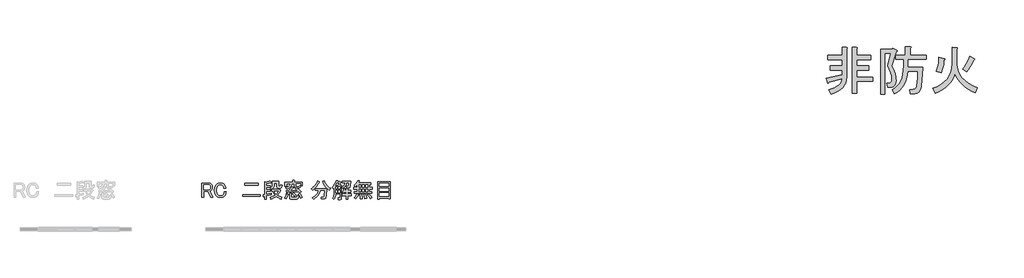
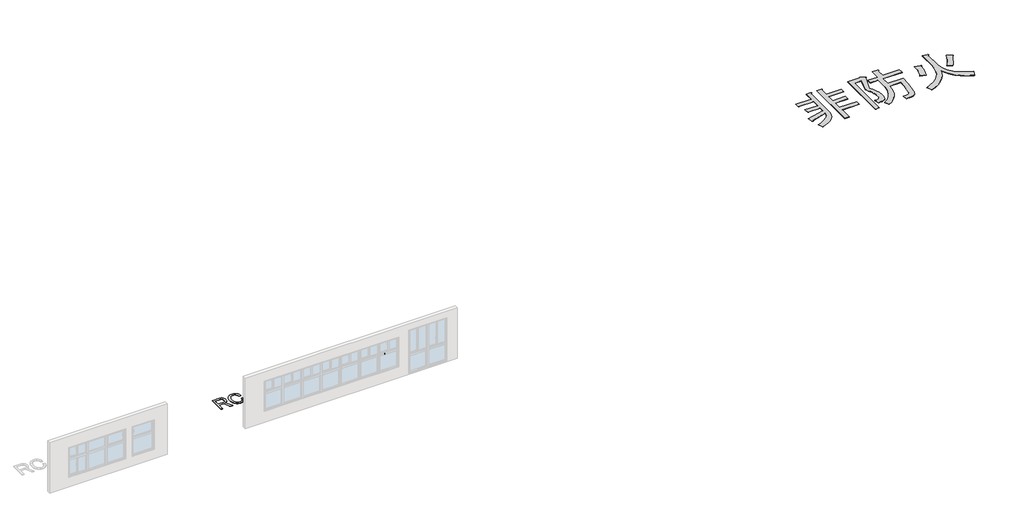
# One storey, part 8 of 9: 2 proxies.
"""IFC4 building model written with IfcOpenShell, lengths in millimetres."""

import ifcopenshell
import ifcopenshell.guid

model = None  # the IFC model being written
_history = None  # IfcOwnerHistory: only IFC2X3 demands one
_inside = {}  # id of a spatial element -> (the spatial element, [elements in it])
_under = {}  # id of a project, library or spatial element -> (it, [spatial elements below it])
_declared = {}  # id of a project -> (the project, [libraries it declares])
_typed = {}  # id of a type object -> (the type object, [elements of that type])
_made_of = {}  # id of a material, layer set ... -> (it, [elements and type objects made of it])


def new_model(schema):
    """Start an empty IFC model of exactly this schema.

    Asked for "IFC4X3", IfcOpenShell would pick the latest addendum, in which some entities
    have other attributes; the version numbers below select the first issue.
    IFC2X3 requires an IfcOwnerHistory on every rooted entity: one is made here for all.
    """
    global model, _history
    if schema == "IFC4X3":
        model = ifcopenshell.file(schema_version=(4, 3, 0, 0))
    else:
        model = ifcopenshell.file(schema=schema)
    _inside.clear()
    _under.clear()
    _declared.clear()
    _typed.clear()
    _made_of.clear()
    _history = None
    if model.schema == "IFC2X3":
        org = make("IfcOrganization", Name="unknown")
        user = make(
            "IfcPersonAndOrganization",
            ThePerson=make("IfcPerson", FamilyName="unknown"),
            TheOrganization=org,
        )
        app = make(
            "IfcApplication",
            ApplicationDeveloper=org,
            Version="unknown",
            ApplicationFullName="unknown",
            ApplicationIdentifier="unknown",
        )
        _history = make(
            "IfcOwnerHistory",
            OwningUser=user,
            OwningApplication=app,
            ChangeAction="ADDED",
            CreationDate=0,
        )
    return model


def make(cls, **values):
    """One entity of the class cls with the attributes given. An attribute that is None is left unset."""
    return model.create_entity(
        cls, **{name: value for name, value in values.items() if value is not None}
    )


def rooted(cls, **values):
    """An entity with a GlobalId (a new one), such as an element, a storey or a relation."""
    return make(cls, GlobalId=ifcopenshell.guid.new(), OwnerHistory=_history, **values)


def si_unit(unit_type, name, prefix=None):
    """IfcSIUnit, for example si_unit("LENGTHUNIT", "METRE", prefix="MILLI")."""
    return make("IfcSIUnit", UnitType=unit_type, Prefix=prefix, Name=name)


def assignment(units):
    """IfcUnitAssignment: the units of a project."""
    return None if units is None else make("IfcUnitAssignment", Units=units)


def point(xyz):
    """IfcCartesianPoint."""
    return None if xyz is None else make("IfcCartesianPoint", Coordinates=xyz)


def direction(xyz):
    """IfcDirection."""
    return None if xyz is None else make("IfcDirection", DirectionRatios=xyz)


def frame(location, z_axis=None, x_axis=None):
    """IfcAxis2Placement3D, a coordinate frame: its origin and axes. An axis left out is left unset."""
    return make(
        "IfcAxis2Placement3D",
        Location=point(location),
        Axis=direction(z_axis),
        RefDirection=direction(x_axis),
    )


def origin():
    """The frame at (0, 0, 0) with its axes left unset."""
    return frame((0.0, 0.0, 0.0))


def origin_with_axes():
    """The frame at (0, 0, 0) with the z axis (0, 0, 1) and the x axis (1, 0, 0) written out."""
    return frame((0.0, 0.0, 0.0), z_axis=(0.0, 0.0, 1.0), x_axis=(1.0, 0.0, 0.0))


def place(relative_to, where):
    """IfcLocalPlacement: puts the frame where relative to a parent placement (None: the world)."""
    return make(
        "IfcLocalPlacement", PlacementRelTo=relative_to, RelativePlacement=where
    )


def context(
    kind, dimensions, precision=None, world=None, true_north=None, identifier=None
):
    """IfcGeometricRepresentationContext, for example the 3D "Model" context."""
    return make(
        "IfcGeometricRepresentationContext",
        ContextIdentifier=identifier,
        ContextType=kind,
        CoordinateSpaceDimension=dimensions,
        Precision=precision,
        WorldCoordinateSystem=world,
        TrueNorth=true_north,
    )


def project(units=None, contexts=None):
    """IfcProject with its units and contexts."""
    return rooted(
        "IfcProject",
        Name="project",
        RepresentationContexts=contexts,
        UnitsInContext=assignment(units),
    )


def spatial(cls, under=None, at=None, **own):
    """A site, building, storey or space (cls), placed at a placement, below another one or the project."""
    s = rooted(cls, ObjectPlacement=at, **own)
    if under is not None:
        _under.setdefault(under.id(), (under, []))[1].append(s)
    return s


def polyline(points):
    """IfcPolyline through the points."""
    return make("IfcPolyline", Points=[point(p) for p in points])


def outline(outer, holes=None, kind="AREA"):
    """IfcArbitraryClosedProfileDef: a profile drawn as a closed curve; with holes, ...WithVoids."""
    if holes is None:
        return make("IfcArbitraryClosedProfileDef", ProfileType=kind, OuterCurve=outer)
    return make(
        "IfcArbitraryProfileDefWithVoids",
        ProfileType=kind,
        OuterCurve=outer,
        InnerCurves=holes,
    )


def extrude(swept, where, along, depth):
    """IfcExtrudedAreaSolid: the profile swept, set in the frame where, extruded along a direction by depth."""
    return make(
        "IfcExtrudedAreaSolid",
        SweptArea=swept,
        Position=where,
        ExtrudedDirection=direction(along),
        Depth=depth,
    )


def shape(context_of_items, identifier, shape_type, items):
    """IfcShapeRepresentation: the items that make up one representation, for example the "Body"."""
    return make(
        "IfcShapeRepresentation",
        ContextOfItems=context_of_items,
        RepresentationIdentifier=identifier,
        RepresentationType=shape_type,
        Items=items,
    )


def made_of(thing, what):
    """Note that an element or type object is made of a material, layer set ...; save() writes the relation."""
    if what is not None:
        _made_of.setdefault(what.id(), (what, []))[1].append(thing)
    return thing


def element(
    cls,
    number,
    at=None,
    inside=None,
    cuts=None,
    type_object=None,
    material=None,
    context=None,
    identifier="Body",
    shape_type=None,
    held_by="IfcProductDefinitionShape",
    body=None,
    shapes=None,
    **own,
):
    """One element of the class cls, such as IfcWall. Its Tag is "e" and its number.

    at: its placement. inside: the storey or other place that contains it. cuts: it is an
    opening in that element (IfcRelVoidsElement). A single representation is given by context,
    identifier, shape_type and body (its items); several are given by shapes. held_by: the class
    of the entity that holds the representations. save() writes the other relations.
    """
    e = rooted(cls, Tag="e%d" % number, ObjectPlacement=at, **own)
    if body is not None:
        shapes = [shape(context, identifier, shape_type, body)]
    if shapes is not None:
        e.Representation = make(held_by, Representations=shapes)
    if inside is not None:
        _inside.setdefault(inside.id(), (inside, []))[1].append(e)
    if cuts is not None:
        rooted(
            "IfcRelVoidsElement", RelatingBuildingElement=cuts, RelatedOpeningElement=e
        )
    if type_object is not None:
        _typed.setdefault(type_object.id(), (type_object, []))[1].append(e)
    return made_of(e, material)


def aggregate(whole, parts):
    """IfcRelAggregates: a whole, such as a stair, and the parts it consists of."""
    return rooted("IfcRelAggregates", RelatingObject=whole, RelatedObjects=parts)


def save(model, path):
    """Write the relations noted so far, then the file.

    IfcRelAggregates (storeys below a building ...), IfcRelContainedInSpatialStructure (elements
    in a storey), IfcRelDefinesByType, IfcRelAssociatesMaterial and IfcRelDeclares: one each for
    every whole, place, type object, material and project.
    """
    for whole, parts in _under.values():
        aggregate(whole, parts)
    for where, things in _inside.values():
        rooted(
            "IfcRelContainedInSpatialStructure",
            RelatedElements=things,
            RelatingStructure=where,
        )
    for kind, things in _typed.values():
        rooted("IfcRelDefinesByType", RelatedObjects=things, RelatingType=kind)
    for what, things in _made_of.values():
        rooted("IfcRelAssociatesMaterial", RelatedObjects=things, RelatingMaterial=what)
    for by, libraries in _declared.values():
        rooted("IfcRelDeclares", RelatingContext=by, RelatedDefinitions=libraries)
    model.write(path)


model = new_model("IFC4")

# Units and contexts
model_context = context("Model", 3, world=origin())
ifc_project = project(units=[si_unit("LENGTHUNIT", "METRE", prefix="MILLI")], contexts=[model_context])

# Site, building, storey
site = spatial("IfcSite", under=ifc_project)
building = spatial("IfcBuilding", under=site)
storey = spatial("IfcBuildingStorey", under=building, Name="レベル 1", Elevation=0.0)

# Proxies
placement = place(None, origin())
element("IfcBuildingElementProxy", 1, Name="600mm Arial", ObjectType="600mm Arial", at=placement, inside=storey, context=model_context, shape_type="SweptSolid", body=[
    extrude(outline(polyline([(18681.0127567, 3042.8218942), (19090.8555952, 3042.8218942), (19137.5118112, 3038.8576406), (19179.898831, 3026.9648796), (19218.0166545, 3007.1436114), (19251.8652818, 2979.3938359), (19279.6150573, 2944.6303808), (19299.4363256, 2903.768074), (19311.3290865, 2856.8069154), (19315.2933401, 2803.7469051), (19311.3290865, 2750.6868948), (19299.4363256, 2703.7257362), (19279.6150573, 2662.8634294), (19251.8652818, 2628.0999743), (19232.9588413, 2612.5479023), (19210.3930898, 2600.0452562), (19184.1680272, 2590.592036), (19154.2836536, 2584.1882416), (19344.5678286, 2208.498973), (19222.5907933, 2208.498973), (19046.9438625, 2562.5251202), (18793.2316292, 2562.5251202), (18793.2316292, 2208.498973), (18681.0127567, 2208.498973), (18681.0127567, 3042.8218942)]), holes=[polyline([(18793.2316292, 2943.0934702), (18793.2316292, 2662.2535442), (19081.0974324, 2662.2535442), (19104.5780117, 2664.3881423), (19126.2289355, 2670.7919367), (19146.0502037, 2681.4649272), (19164.0418164, 2696.4071141), (19178.9840032, 2715.9234397), (19189.6569938, 2740.3188468), (19196.0607882, 2769.5933352), (19198.1953863, 2803.7469051), (19195.7558456, 2836.0708194), (19188.4372235, 2864.7354227), (19176.2395199, 2889.740715), (19159.162735, 2911.0866961), (19138.7315816, 2925.0896598), (19116.4707726, 2935.0917767), (19092.3803082, 2941.0930468), (19066.4601882, 2943.0934702), (18793.2316292, 2943.0934702)])]), origin_with_axes(), (0.0, 0.0, 1.0), 10.0),
    extrude(outline(polyline([(19433.7574368, 2618.3418115), (19435.663328, 2670.5632297), (19441.3810015, 2719.8876934), (19450.9104574, 2766.3152024), (19464.2516956, 2809.8457569), (19481.4047162, 2850.4793567), (19502.3695191, 2888.216002), (19527.1461044, 2923.0556927), (19555.7344721, 2954.9984288), (19579.7487009, 2976.7255882), (19605.4401139, 2995.5557931), (19632.8087112, 3011.4890433), (19661.8544927, 3024.5253389), (19692.5774585, 3034.66468), (19724.9776085, 3041.9070665), (19794.8094612, 3047.7009756), (19864.0314287, 3042.5169516), (19925.3248889, 3026.9648796), (19952.9984288, 3015.3008256), (19978.6898419, 3001.0447596), (20002.3991281, 2984.1966817), (20024.1262875, 2964.7565917), (20062.8539962, 2917.7954331), (20091.2136569, 2864.7354227), (20109.2052696, 2805.5765606), (20116.8288343, 2740.3188468), (19999.7308804, 2740.3188468), (19992.1073157, 2788.4997757), (19978.9947844, 2830.5818529), (19960.3932866, 2866.5650783), (19936.3028221, 2896.4494519), (19905.5036207, 2922.0646293), (19871.6549934, 2940.3611846), (19834.7569402, 2951.3391178), (19794.8094612, 2954.9984288), (19752.1174988, 2950.7292326), (19711.8650772, 2937.9216439), (19674.0521963, 2916.5756627), (19638.678856, 2886.6912891), (19618.0952313, 2863.2869454), (19600.2560899, 2836.9856472), (19585.1614318, 2807.7873944), (19572.811257, 2775.692187), (19563.2055655, 2740.700025), (19556.3443572, 2702.8109084), (19550.8553906, 2618.3418115), (19556.3443572, 2533.8727146), (19563.2055655, 2495.983598), (19572.811257, 2460.991436), (19585.1614318, 2428.8962286), (19600.2560899, 2399.6979758), (19618.0952313, 2373.3966775), (19638.678856, 2349.9923339), (19672.2225407, 2322.2425584), (19709.4255365, 2302.4212901), (19750.2878433, 2290.5285292), (19794.8094612, 2286.5642756), (19840.855792, 2289.918644), (19881.4131562, 2299.9817494), (19916.4815539, 2316.7535918), (19946.0609849, 2340.2341711), (19975.9453586, 2378.047052), (19997.2913397, 2423.1785551), (20010.0989284, 2475.6286802), (20014.3681247, 2535.3974275), (20131.4660785, 2535.3974275), (20123.5375712, 2457.0271823), (20115.4565927, 2421.2726639), (20104.6311308, 2387.8052148), (20091.0611856, 2356.6248352), (20074.7467571, 2327.731525), (20055.6878454, 2301.1252841), (20033.8844503, 2276.8061127), (20012.0048196, 2257.3660227), (19987.8381195, 2240.5179447), (19961.38435, 2226.2618787), (19932.643511, 2214.5978247), (19868.3006249, 2199.0457528), (19794.8094612, 2193.8617288), (19724.9776085, 2199.6556379), (19692.5774585, 2206.8980244), (19661.8544927, 2217.0373655), (19632.8087112, 2230.0736611), (19605.4401139, 2246.0069113), (19579.7487009, 2264.8371161), (19555.7344721, 2286.5642756), (19527.1461044, 2318.430776), (19502.3695191, 2353.0417598), (19481.4047162, 2390.3972268), (19464.2516956, 2430.4971772), (19450.9104574, 2473.3416108), (19441.3810015, 2518.9305277), (19435.663328, 2567.263928), (19433.7574368, 2618.3418115)])), origin_with_axes(), (0.0, 0.0, 1.0), 10.0),
    extrude(outline(polyline([(22038.7965836, 3028.18465), (22038.7965836, 2915.9657775), (21238.6272323, 2915.9657775), (21238.6272323, 3028.18465), (22038.7965836, 3028.18465)])), origin_with_axes(), (0.0, 0.0, 1.0), 10.0),
    extrude(outline(polyline([(22160.7736189, 2364.6295781), (22160.7736189, 2252.4107057), (21106.8920342, 2252.4107057), (21106.8920342, 2364.6295781), (22160.7736189, 2364.6295781)])), origin_with_axes(), (0.0, 0.0, 1.0), 10.0),
    extrude(outline(polyline([(22512.0674805, 3101.3708712), (22572.1411704, 3112.6537469), (22630.3852047, 3126.9860486), (22686.7995835, 3144.3677761), (22741.3843068, 3164.7989295), (22809.6914465, 3086.7336269), (22814.5705279, 3076.3655789), (22809.6914465, 3069.656842), (22795.0542023, 3066.6074161), (22770.6587953, 3067.2173013), (22649.9015303, 3041.6021239), (22521.8256433, 3023.3055686), (22521.8256433, 2891.5703705), (22751.1424696, 2891.5703705), (22751.1424696, 2791.8419465), (22521.8256433, 2791.8419465), (22521.8256433, 2657.3744628), (22756.021551, 2657.3744628), (22756.021551, 2557.6460387), (22521.8256433, 2557.6460387), (22521.8256433, 2393.9040666), (22799.9332837, 2452.4530435), (22799.9332837, 2364.6295781), (22521.8256433, 2291.443357), (22521.8256433, 2096.2801005), (22422.0972193, 2096.2801005), (22422.0972193, 2271.9270313), (22370.5741196, 2257.2897871), (22367.2197511, 2243.5673706), (22362.0357271, 2236.5536911), (22355.0220476, 2236.2487485), (22346.1787125, 2242.6525429), (22331.5414683, 2364.6295781), (22422.0972193, 2379.2668224), (22422.0972193, 3120.8871968), (22512.0674805, 3101.3708712)])), origin_with_axes(), (0.0, 0.0, 1.0), 10.0),
    extrude(outline(polyline([(23404.9393787, 2096.2801005), (23323.8246502, 2126.4694168), (23246.3692328, 2163.3674699), (23172.5731265, 2206.97426), (23102.4363312, 2257.2897871), (23039.0082728, 2210.3286285), (22965.8220517, 2167.026781), (22882.8776677, 2127.3842445), (22790.1751209, 2091.4010191), (22746.2633882, 2193.8617288), (22835.6115665, 2221.9164469), (22913.3719265, 2252.4107057), (22979.5444682, 2285.3445052), (23034.1291914, 2320.7178454), (22991.1322865, 2379.1814384), (22954.8441185, 2440.5968757), (22925.2646875, 2504.9641572), (22902.3939933, 2572.283283), (22829.2077722, 2572.283283), (22829.2077722, 2672.011707), (23258.5669363, 2672.011707), (23278.083262, 2691.5280327), (23356.1485645, 2628.0999743), (23366.21167, 2619.2566393), (23367.1264977, 2612.2429597), (23358.8930478, 2607.0589357), (23341.5113203, 2603.7045673), (23303.0885542, 2516.1860445), (23261.006477, 2439.0355696), (23215.2650888, 2372.2531428), (23165.8643895, 2315.838764), (23223.4985387, 2285.0395626), (23289.0611951, 2256.0700167), (23362.5523589, 2228.9301264), (23443.9720299, 2203.6198916), (23404.9393787, 2096.2801005)]), holes=[polyline([(22990.2174587, 2572.283283), (23006.3794159, 2524.5658668), (23030.4698804, 2475.677471), (23062.4888521, 2425.6180958), (23102.4363312, 2374.387741), (23141.1640399, 2418.5922185), (23174.402782, 2466.3096347), (23202.1525575, 2517.5399895), (23224.4133665, 2572.283283), (22990.2174587, 2572.283283)])]), origin_with_axes(), (0.0, 0.0, 1.0), 10.0),
    extrude(outline(polyline([(23317.1159133, 2847.6586378), (23340.29155, 2852.5377192), (23347.3052295, 2858.636571), (23351.2694831, 2867.1749634), (23370.7858088, 2945.240266), (23463.4883556, 2920.844859), (23455.1786701, 2880.317989), (23444.8868577, 2845.1947017), (23432.6129185, 2815.474997), (23418.3568525, 2791.1588751), (23402.1186597, 2772.2463357), (23383.8983401, 2758.7373791), (23363.6958936, 2750.6320051), (23341.5113203, 2747.9302138), (23239.0506107, 2747.9302138), (23217.9638307, 2749.3359991), (23199.6886214, 2753.5533551), (23184.2249828, 2760.5822817), (23171.5729148, 2770.4227791), (23161.7324175, 2783.074847), (23154.7034908, 2798.5384857), (23150.4861348, 2816.813695), (23149.0803495, 2837.900475), (23149.0803495, 3050.4332612), (22980.4592959, 3050.4332612), (22980.4592959, 2906.2076147), (22977.5623413, 2865.3453079), (22968.8714776, 2828.1423122), (22954.3867046, 2794.5986275), (22934.1080225, 2764.7142538), (22908.0354312, 2738.4891912), (22876.1689308, 2715.9234397), (22838.5085211, 2697.0169992), (22795.0542023, 2681.7698698), (22756.021551, 2769.5933352), (22785.2502981, 2778.2079633), (22810.5818789, 2789.4146035), (22832.0162934, 2803.2132556), (22849.5535417, 2819.6039197), (22863.1936236, 2838.5865958), (22872.9365393, 2860.1612839), (22878.7822887, 2884.327984), (22880.7308719, 2911.0866961), (22880.7308719, 3150.1616853), (23248.8087735, 3150.1616853), (23248.8087735, 2886.6912891), (23250.9433716, 2869.6145041), (23257.347166, 2857.4168006), (23268.0201566, 2850.0981785), (23282.9623434, 2847.6586378), (23317.1159133, 2847.6586378)])), origin_with_axes(), (0.0, 0.0, 1.0), 10.0),
    extrude(outline(polyline([(24653.9842198, 3086.7336269), (24653.9842198, 2896.4494519), (24571.0398358, 2896.4494519), (24555.4877638, 2845.4752489), (24545.1959515, 2825.4496691), (24533.2269549, 2809.0651038), (24519.5807741, 2796.3215531), (24504.257409, 2787.2190168), (24487.2568597, 2781.7574951), (24468.5791262, 2779.9369878), (24263.6577069, 2779.9369878), (24230.699512, 2785.3893613), (24217.7516497, 2792.2048281), (24207.1579442, 2801.7464817), (24198.9183955, 2814.014322), (24193.0330035, 2829.0083491), (24188.32469, 2867.1749634), (24188.32469, 2999.4956513), (24044.0990435, 2999.4956513), (24037.7714848, 2950.2321762), (24021.2283494, 2904.2193891), (23994.4696372, 2861.4572899), (23957.4953484, 2821.9458788), (23910.3054829, 2785.6851556), (23852.9000407, 2752.6751204), (23785.2790218, 2722.9157733), (23707.4424261, 2696.4071141), (23678.1679377, 2789.1096609), (23741.0623465, 2807.7233564), (23795.5708341, 2828.5326387), (23841.6934006, 2851.5375075), (23879.4300459, 2876.737963), (23908.78077, 2904.1340051), (23929.7455729, 2933.7256339), (23942.3244547, 2965.5128493), (23946.5174152, 2999.4956513), (23717.2005889, 2999.4956513), (23717.2005889, 2872.0540449), (23617.4721649, 2872.0540449), (23617.4721649, 3086.7336269), (24080.9848989, 3086.7336269), (24080.9848989, 3203.8315808), (24175.8342416, 3203.8315808), (24190.7764284, 3200.1722697), (24196.5703376, 3194.073418), (24193.2159691, 3185.5350255), (24180.713323, 3174.5570923), (24180.713323, 3086.7336269), (24653.9842198, 3086.7336269)]), holes=[polyline([(24439.3046377, 2867.1749634), (24454.8567097, 2870.8342745), (24467.3593558, 2881.8122077), (24476.8125761, 2900.108763), (24483.2163704, 2925.7239404), (24554.2557958, 2906.2076147), (24554.2557958, 2999.4956513), (24288.053114, 2999.4956513), (24288.053114, 2896.4494519), (24289.8827695, 2883.6418632), (24295.3717361, 2874.4935856), (24304.5200138, 2869.004619), (24317.3276025, 2867.1749634), (24439.3046377, 2867.1749634)])]), origin_with_axes(), (0.0, 0.0, 1.0), 10.0),
    extrude(outline(polyline([(23985.5500665, 2099.0123861), (23964.4632866, 2100.4181715), (23946.1880773, 2104.6355275), (23930.7244386, 2111.6644541), (23918.0723706, 2121.5049514), (23908.2318733, 2134.1570194), (23901.2029466, 2149.6206581), (23896.9855907, 2167.8958674), (23895.5798053, 2188.9826473), (23895.5798053, 2432.9367179), (23990.4291479, 2432.9367179), (24005.3713348, 2429.2774068), (24011.1652439, 2423.1785551), (24007.8108755, 2414.6401626), (23995.3082294, 2403.6622294), (23995.3082294, 2232.89438), (23997.1378849, 2217.9521932), (24002.6268515, 2207.2792026), (24011.7751291, 2200.8754083), (24024.5827178, 2198.7408102), (24283.1740326, 2198.7408102), (24294.6856153, 2200.4179944), (24304.8249564, 2205.4495471), (24320.9869135, 2225.5757579), (24331.6599041, 2259.1194426), (24336.8439281, 2306.0806012), (24444.1837191, 2281.6851941), (24439.3046377, 2238.8712548), (24431.9860156, 2201.7658406), (24422.2278528, 2170.3689518), (24410.0301493, 2144.6805881), (24395.392905, 2124.7007498), (24378.3161201, 2110.4294366), (24358.7997945, 2101.8666488), (24336.8439281, 2099.0123861), (23985.5500665, 2099.0123861)])), origin_with_axes(), (0.0, 0.0, 1.0), 10.0),
    extrude(outline(polyline([(23751.3541588, 2491.4856948), (23747.9997903, 2477.7632783), (23742.8157663, 2470.7495988), (23735.8020868, 2470.4446562), (23726.9587518, 2476.8484506), (23702.5633447, 2584.1882416), (23853.8148684, 2584.1882416), (24039.2199621, 2842.7795564), (24136.8015903, 2784.2305795), (24137.1065329, 2774.167474), (24133.1422792, 2768.3735649), (24124.9088293, 2766.8488519), (24112.4061832, 2769.5933352), (23946.5174152, 2584.1882416), (24366.1184166, 2608.5836487), (24299.0310472, 2661.0337738), (24234.3832185, 2701.2861955), (24297.8112768, 2754.956091), (24360.62945, 2725.0717174), (24431.9860156, 2679.3303291), (24511.8809737, 2617.7319263), (24600.3143243, 2540.2765089), (24512.4908589, 2471.9693692), (24444.1837191, 2540.2765089), (23751.3541588, 2491.4856948)])), origin_with_axes(), (0.0, 0.0, 1.0), 10.0),
    extrude(outline(polyline([(24502.7326961, 2432.9367179), (24551.2185676, 2378.047052), (24594.2154725, 2320.7178454), (24631.7234109, 2260.9490982), (24663.7423826, 2198.7408102), (24566.1607544, 2135.3127518), (24535.361553, 2203.6198916), (24501.5129257, 2267.0479499), (24464.6148726, 2325.5969268), (24424.6673935, 2379.2668224), (24502.7326961, 2432.9367179)])), origin_with_axes(), (0.0, 0.0, 1.0), 10.0),
    extrude(outline(polyline([(24166.0760787, 2276.8061127), (24148.3894086, 2309.7399123), (24124.6038867, 2345.1132525), (24058.7362877, 2423.1785551), (24141.6806717, 2476.8484506), (24172.7848157, 2450.0135028), (24202.6691893, 2418.2994736), (24231.3337926, 2381.7063631), (24258.7786255, 2340.2341711), (24166.0760787, 2276.8061127)])), origin_with_axes(), (0.0, 0.0, 1.0), 10.0),
    extrude(outline(polyline([(23609.8607979, 2159.7081589), (23645.5390807, 2228.9301264), (23674.5086266, 2295.102668), (23696.7694355, 2358.2257838), (23712.3215075, 2418.2994736), (23809.9031357, 2384.1459038), (23816.9168153, 2376.8272817), (23818.4415282, 2369.5086595), (23814.4772746, 2362.1900374), (23805.0240543, 2354.8714153), (23786.1176139, 2288.3939311), (23763.5518623, 2225.5757579), (23737.3267998, 2166.4168958), (23707.4424261, 2110.9173448), (23609.8607979, 2159.7081589)])), origin_with_axes(), (0.0, 0.0, 1.0), 10.0),
    extrude(outline(polyline([(26092.3374197, 2706.1652769), (26072.8210941, 2310.9596826), (26068.4756622, 2261.7876903), (26060.318448, 2219.1719636), (26048.3494514, 2183.1125025), (26032.5686724, 2153.6093071), (26012.9761111, 2130.6623774), (25989.5717675, 2114.2717132), (25962.3556415, 2104.4373148), (25931.3277332, 2101.1591819), (25784.9552908, 2101.1591819), (25770.3180466, 2213.3780544), (25892.2950819, 2213.3780544), (25920.3498, 2218.5620784), (25941.085896, 2234.1141504), (25954.5033699, 2260.0342704), (25960.6022216, 2296.3224384), (25980.1185473, 2606.4368528), (25711.7690697, 2606.4368528), (25706.8899883, 2574.4300788), (25693.3962787, 2508.0288302), (25669.9919351, 2442.9998233), (25636.6769573, 2379.343058), (25593.4513455, 2317.0585344), (25540.3150995, 2256.1462524), (25477.2682194, 2196.606212), (25404.3107051, 2138.4384134), (25321.4425568, 2081.6428563), (25248.2563356, 2174.3454031), (25323.119741, 2219.7818487), (25389.1398114, 2265.8281796), (25446.3165467, 2312.4843956), (25494.6499469, 2359.7504967), (25534.1400121, 2407.6264831), (25564.7867422, 2456.1123546), (25586.5901372, 2505.2081113), (25599.5501972, 2554.9137531), (25609.30836, 2606.4368528), (25423.9032664, 2606.4368528), (25423.9032664, 2706.1652769), (26092.3374197, 2706.1652769)])), origin_with_axes(), (0.0, 0.0, 1.0), 10.0),
    extrude(outline(polyline([(25653.2200927, 3091.6127083), (25621.7347705, 3028.8707708), (25585.8277808, 2967.5010749), (25545.4991235, 2907.5036207), (25500.7487987, 2848.8784081), (25451.5768063, 2791.6254372), (25397.9831464, 2735.7447079), (25339.967819, 2681.2362203), (25277.5308241, 2628.0999743), (25199.4655215, 2720.8025211), (25260.7589818, 2766.3152024), (25317.7832457, 2815.0297809), (25370.5383135, 2866.9462565), (25419.024185, 2922.0646293), (25463.2408603, 2980.3848993), (25503.1883394, 3041.9070665), (25538.8666222, 3106.6311308), (25570.2757088, 3174.5570923), (25662.9782556, 3116.0081154), (25673.3463036, 3107.1647803), (25675.1759591, 3100.1511008), (25668.4672221, 3094.9670768), (25653.2200927, 3091.6127083)])), origin_with_axes(), (0.0, 0.0, 1.0), 10.0),
    extrude(outline(polyline([(26258.2261877, 2628.0999743), (26193.349652, 2670.2582871), (26132.8947839, 2718.667923), (26076.8615834, 2773.3288819), (26025.2500503, 2834.2411639), (25978.0601848, 2901.404769), (25935.2919868, 2974.8196971), (25896.9454563, 3054.4859482), (25863.0205934, 3140.4035224), (25955.7231402, 3179.4361737), (25987.2084624, 3104.1153545), (26023.1154522, 3034.2835018), (26063.4441095, 2969.9406157), (26108.1944343, 2911.0866961), (26157.3664266, 2857.7217432), (26210.9600865, 2809.8457569), (26268.9754139, 2767.4587371), (26331.4124088, 2730.5606839), (26258.2261877, 2628.0999743)])), origin_with_axes(), (0.0, 0.0, 1.0), 10.0),
    extrude(outline(polyline([(26546.6774807, 2774.4724166), (26512.4263292, 2731.7804543), (26482.6639326, 2701.2861955), (26433.8731185, 2784.2305795), (26469.4751656, 2823.7968803), (26503.095086, 2866.8700209), (26534.7328795, 2913.4500012), (26564.3885462, 2963.5368213), (26592.0620861, 3017.1304812), (26617.7534991, 3074.2309808), (26663.1899448, 3198.9524994), (26751.0134102, 3189.1943366), (26755.8924916, 3181.8757144), (26755.8924916, 3174.5570923), (26751.0134102, 3167.2384702), (26741.2552473, 3159.9198481), (26726.6180031, 3125.7662782), (26848.5950384, 3125.7662782), (26868.111364, 3150.1616853), (26955.9348294, 3091.6127083), (26931.5394224, 3062.3382199), (26848.5950384, 2906.2076147), (26980.3302365, 2906.2076147), (26980.3302365, 2159.7081589), (26975.7560976, 2120.3461696), (26970.0384241, 2104.8825309), (26962.0336812, 2092.230463), (26951.7418688, 2082.3899656), (26939.1629871, 2075.361039), (26907.1440153, 2069.7378977), (26799.8042243, 2069.7378977), (26780.2878986, 2169.4663217), (26877.8695268, 2169.4663217), (26889.2865773, 2174.3454031), (26893.0922608, 2188.9826473), (26893.0922608, 2399.3686378), (26633.9154563, 2399.3686378), (26632.3145077, 2351.9592136), (26627.511662, 2306.9222427), (26619.506919, 2264.2577252), (26608.3002789, 2223.9656611), (26593.8917416, 2186.0460502), (26576.2813071, 2150.4988927), (26555.4689755, 2117.3241885), (26531.4547467, 2086.5219377), (26458.2685255, 2145.0709146), (26478.9893744, 2172.5157476), (26496.9474434, 2203.6198916), (26512.1427326, 2238.3833466), (26524.5752419, 2276.8061127), (26534.2449714, 2318.8881899), (26541.151921, 2364.6295781), (26546.6774807, 2467.0902878), (26546.6774807, 2774.4724166)]), holes=[polyline([(26702.2225961, 3038.5283026), (26675.3876483, 2980.3696522), (26633.9154563, 2906.2076147), (26765.6506544, 2906.2076147), (26829.0787127, 3038.5283026), (26702.2225961, 3038.5283026)]), polyline([(26799.8042243, 2486.6066134), (26893.0922608, 2486.6066134), (26893.0922608, 2614.0482198), (26799.8042243, 2614.0482198), (26799.8042243, 2486.6066134)]), polyline([(26725.0566971, 2486.6066134), (26725.0566971, 2614.0482198), (26633.9154563, 2614.0482198), (26633.9154563, 2486.6066134), (26725.0566971, 2486.6066134)]), polyline([(26633.9154563, 2818.9696391), (26633.9154563, 2701.2861955), (26725.0566971, 2701.2861955), (26725.0566971, 2818.9696391), (26633.9154563, 2818.9696391)]), polyline([(26799.8042243, 2818.9696391), (26799.8042243, 2701.2861955), (26893.0922608, 2701.2861955), (26893.0922608, 2818.9696391), (26799.8042243, 2818.9696391)])]), origin_with_axes(), (0.0, 0.0, 1.0), 10.0),
    extrude(outline(polyline([(27273.0751211, 2867.1749634), (27370.6567493, 2867.1749634), (27385.9038787, 2869.004619), (27397.4916971, 2874.4935856), (27405.4202044, 2883.6418632), (27409.6894006, 2896.4494519), (27424.3266449, 3053.1655468), (27277.9542025, 3053.1655468), (27270.1019309, 2999.6420237), (27256.3032788, 2950.4120923), (27236.5582462, 2905.4757525), (27210.8668331, 2864.8330044), (27179.2290396, 2828.4838479), (27141.6448656, 2796.428283), (27098.1143112, 2768.6663098), (27048.6373762, 2745.1979282), (27009.6047249, 2828.1423122), (27049.7809109, 2846.0027995), (27084.9255442, 2866.7968346), (27115.0386248, 2890.5244174), (27140.1201527, 2917.1855479), (27160.1701278, 2946.7802261), (27175.1885503, 2979.308452), (27185.1754201, 3014.7702255), (27190.1307371, 3053.1655468), (27034.000132, 3053.1655468), (27034.000132, 3140.4035224), (27517.0291917, 3140.4035224), (27492.6337846, 2857.4168006), (27485.6201051, 2818.0548113), (27478.6826612, 2802.5911727), (27469.4581479, 2789.9391047), (27457.9465652, 2780.0986074), (27444.1479131, 2773.0696807), (27409.6894006, 2767.4465394), (27282.8332839, 2767.4465394), (27273.0751211, 2867.1749634)])), origin_with_axes(), (0.0, 0.0, 1.0), 10.0),
    extrude(outline(polyline([(27346.2613423, 2303.9338054), (27346.2613423, 2081.6428563), (27259.0233667, 2081.6428563), (27259.0233667, 2303.9338054), (27024.2419692, 2303.9338054), (27024.2419692, 2403.6622294), (27259.0233667, 2403.6622294), (27259.0233667, 2508.8552246), (27155.9771673, 2508.8552246), (27102.3072717, 2428.0576365), (27029.1210506, 2481.727532), (27064.4943908, 2534.7875423), (27092.5491089, 2591.5068637), (27113.2852049, 2651.8854962), (27126.7026788, 2715.9234397), (27214.5261442, 2701.2861955), (27219.4052256, 2693.9675734), (27219.4052256, 2686.6489512), (27214.5261442, 2679.3303291), (27204.7679814, 2672.011707), (27185.2516557, 2608.5836487), (27259.0233667, 2608.5836487), (27259.0233667, 2730.5606839), (27341.3822609, 2730.5606839), (27356.3244477, 2726.9013729), (27362.1183569, 2720.8025211), (27358.7639884, 2712.2641286), (27346.2613423, 2701.2861955), (27346.2613423, 2608.5836487), (27517.0291917, 2608.5836487), (27517.0291917, 2508.8552246), (27346.2613423, 2508.8552246), (27346.2613423, 2403.6622294), (27560.9409244, 2403.6622294), (27560.9409244, 2303.9338054), (27346.2613423, 2303.9338054)])), origin_with_axes(), (0.0, 0.0, 1.0), 10.0),
    extrude(outline(polyline([(28697.7668931, 2120.6755076), (28616.0422794, 2230.4548393), (28517.2408809, 2345.1132525), (28595.3061834, 2398.783148), (28641.9623994, 2358.2257838), (28689.2285006, 2309.7399123), (28737.1044869, 2253.3255334), (28785.5903585, 2188.9826473), (28697.7668931, 2120.6755076)])), origin_with_axes(), (0.0, 0.0, 1.0), 10.0),
    extrude(outline(polyline([(27985.4210071, 3057.4591385), (28731.9204629, 3057.4591385), (28731.9204629, 2957.7307144), (28629.4597533, 2957.7307144), (28629.4597533, 2793.9887423), (28800.2276027, 2793.9887423), (28800.2276027, 2694.2603182), (28629.4597533, 2694.2603182), (28629.4597533, 2530.5183461), (28785.5903585, 2530.5183461), (28785.5903585, 2430.7899221), (27736.5878551, 2430.7899221), (27736.5878551, 2530.5183461), (27924.7252343, 2530.5183461), (27924.7252343, 2694.2603182), (27721.9506109, 2694.2603182), (27721.9506109, 2793.9887423), (27924.7252343, 2793.9887423), (27924.7252343, 2959.8775102), (27891.4498991, 2914.7460072), (27858.7600537, 2876.9331263), (27826.655698, 2846.4388674), (27795.1368321, 2823.2632307), (27736.5878551, 2906.2076147), (27802.7603968, 2966.5862472), (27859.7846608, 3035.5032721), (27907.6606471, 3112.9586895), (27946.3883558, 3198.9524994), (28043.969984, 3169.6780109), (28050.3737784, 3160.8346759), (28050.0688358, 3153.8209963), (28043.0551563, 3148.6369723), (28029.3327398, 3145.2826039), (27985.4210071, 3057.4591385)]), holes=[polyline([(28429.4174155, 2957.7307144), (28429.4174155, 2793.9887423), (28529.7313293, 2793.9887423), (28529.7313293, 2957.7307144), (28429.4174155, 2957.7307144)]), polyline([(28224.4959962, 2957.7307144), (28224.4959962, 2793.9887423), (28329.6889914, 2793.9887423), (28329.6889914, 2957.7307144), (28224.4959962, 2957.7307144)]), polyline([(28024.4536584, 2793.9887423), (28124.7675722, 2793.9887423), (28124.7675722, 2957.7307144), (28024.4536584, 2957.7307144), (28024.4536584, 2793.9887423)]), polyline([(28429.4174155, 2530.5183461), (28529.7313293, 2530.5183461), (28529.7313293, 2694.2603182), (28429.4174155, 2694.2603182), (28429.4174155, 2530.5183461)]), polyline([(28224.4959962, 2694.2603182), (28224.4959962, 2530.5183461), (28329.6889914, 2530.5183461), (28329.6889914, 2694.2603182), (28224.4959962, 2694.2603182)]), polyline([(28024.4536584, 2694.2603182), (28024.4536584, 2530.5183461), (28124.7675722, 2530.5183461), (28124.7675722, 2694.2603182), (28024.4536584, 2694.2603182)])]), origin_with_axes(), (0.0, 0.0, 1.0), 10.0),
    extrude(outline(polyline([(28375.74752, 2120.6755076), (28337.934639, 2260.9490982), (28302.5612988, 2369.5086595), (28400.142927, 2398.783148), (28440.3953486, 2291.443357), (28483.087311, 2154.8290775), (28375.74752, 2120.6755076)])), origin_with_axes(), (0.0, 0.0, 1.0), 10.0),
    extrude(outline(polyline([(27995.1791699, 2354.8714153), (28001.5829643, 2346.0280803), (28001.2780217, 2339.0144007), (27994.2643421, 2333.8303767), (27980.5419257, 2330.4760083), (27939.3746763, 2259.4243852), (27898.8173121, 2197.5210398), (27858.869833, 2144.7659721), (27819.5322391, 2101.1591819), (27741.4669366, 2169.4663217), (27789.9528081, 2228.0152986), (27832.949713, 2286.5642756), (27870.4576514, 2345.1132525), (27902.4766231, 2403.6622294), (27995.1791699, 2354.8714153)])), origin_with_axes(), (0.0, 0.0, 1.0), 10.0),
    extrude(outline(polyline([(28180.5842635, 2389.0249852), (28193.0869096, 2318.5832473), (28201.3203595, 2248.7513946), (28205.2846132, 2179.5294271), (28204.9796706, 2110.9173448), (28097.6398795, 2101.1591819), (28092.7607981, 2247.5316243), (28078.1235539, 2384.1459038), (28180.5842635, 2389.0249852)])), origin_with_axes(), (0.0, 0.0, 1.0), 10.0),
    extrude(outline(polyline([(29873.6255131, 2106.0382634), (29773.897089, 2106.0382634), (29773.897089, 2157.5613631), (29224.7076854, 2157.5613631), (29224.7076854, 2086.5219377), (29124.9792614, 2086.5219377), (29124.9792614, 3135.524441), (29873.6255131, 3135.524441), (29873.6255131, 2106.0382634)]), holes=[polyline([(29773.897089, 2852.5377192), (29773.897089, 3035.796017), (29224.7076854, 3035.796017), (29224.7076854, 2852.5377192), (29773.897089, 2852.5377192)]), polyline([(29773.897089, 2564.671916), (29773.897089, 2752.8092952), (29224.7076854, 2752.8092952), (29224.7076854, 2564.671916), (29773.897089, 2564.671916)]), polyline([(29773.897089, 2257.2897871), (29773.897089, 2464.9434919), (29224.7076854, 2464.9434919), (29224.7076854, 2257.2897871), (29773.897089, 2257.2897871)])]), origin_with_axes(), (0.0, 0.0, 1.0), 10.0),
])
element("IfcBuildingElementProxy", 2, Name="800mm Arial 2", ObjectType="800mm Arial 2", at=placement, inside=storey, context=model_context, shape_type="SweptSolid", body=[
    extrude(outline(polyline([(56968.4168717, 9325.8435224), (56954.0464813, 9149.3751279), (56910.93531, 8987.8519393), (56839.0833578, 8841.2739569), (56738.4906247, 8709.6411805), (56609.1571108, 8592.9536101), (56451.082816, 8491.2112459), (56264.2677403, 8404.4140876), (56048.7118838, 8332.5621354), (55926.0845521, 8577.8167989), (56104.6606039, 8639.32207), (56260.244031, 8707.341918), (56392.8348334, 8781.8763431), (56502.4330112, 8862.9253451), (56589.0385642, 8950.4889242), (56652.6514925, 9044.5670803), (56693.2717962, 9145.1598133), (56710.8994751, 9252.2671234), (55901.5590857, 9019.2751931), (55893.1284567, 8984.7862561), (55887.1886953, 8973.8647593), (55880.0993027, 8967.1585771), (55871.8602788, 8964.6677094), (55862.4716237, 8966.3921563), (55840.2454198, 8982.4869936), (55778.931754, 9264.5298565), (56717.7666057, 9485.2590537), (56717.7666057, 9749.6435809), (56011.9236843, 9749.6435809), (56011.9236843, 10000.2938469), (56717.7666057, 10000.2938469), (56717.7666057, 10375.0429727), (55864.7708862, 10375.0429727), (55864.7708862, 10625.6932387), (56717.7666057, 10625.6932387), (56717.7666057, 11103.9398324), (56956.1541385, 11103.9398324), (56993.7087589, 11094.7427826), (57003.8638348, 11087.8449951), (57008.2707545, 11079.4143661), (57006.9295181, 11069.4508954), (56999.8401255, 11057.954583), (56968.4168717, 11030.3634334), (56968.4168717, 9325.8435224)])), origin_with_axes(), (0.0, 0.0, 1.0), 10.0),
    extrude(outline(polyline([(58415.4193861, 10625.6932387), (58415.4193861, 10375.0429727), (57569.2907972, 10375.0429727), (57569.2907972, 10000.2938469), (58280.5293212, 10000.2938469), (58280.5293212, 9749.6435809), (57569.2907972, 9749.6435809), (57569.2907972, 9338.1062556), (58538.0467178, 9338.1062556), (58538.0467178, 9087.4559895), (57569.2907972, 9087.4559895), (57569.2907972, 8393.8758013), (57318.6405311, 8393.8758013), (57318.6405311, 11103.9398324), (57557.028064, 11103.9398324), (57594.5826843, 11094.7427826), (57604.7377603, 11087.8449951), (57609.14468, 11079.4143661), (57607.8034435, 11069.4508954), (57600.7140509, 11057.954583), (57569.2907972, 11030.3634334), (57569.2907972, 10625.6932387), (58415.4193861, 10625.6932387)])), origin_with_axes(), (0.0, 0.0, 1.0), 10.0),
    extrude(outline(polyline([(60598.1858908, 9676.0671818), (60569.8283203, 9438.3924203), (60521.5438085, 9221.5183199), (60453.3323552, 9025.4448807), (60365.1939605, 8850.1721026), (60257.1286244, 8695.6999857), (60129.1363469, 8562.0285299), (59981.2171281, 8449.1577353), (59813.3709678, 8357.0876018), (59690.743636, 8602.3422652), (59847.5533365, 8696.6120265), (59983.4550769, 8813.8744125), (60098.4488572, 8954.1294231), (60192.5346774, 9117.3770585), (60265.7125377, 9303.6173185), (60317.9824378, 9512.8502033), (60349.3443779, 9745.0757127), (60359.7983579, 10000.2938469), (60359.7983579, 10387.3057058), (59899.2101, 10387.3057058), (59899.2101, 10637.9559719), (60463.2958259, 10637.9559719), (60463.2958259, 11152.9907651), (60733.0759557, 11152.9907651), (60760.0922897, 11146.0929777), (60779.8276259, 11137.6623487), (60792.2819643, 11127.698878), (60797.4553049, 11116.2025656), (60795.3476476, 11103.1734116), (60785.9589925, 11088.611416), (60769.2893396, 11072.5165787), (60745.3386889, 11054.8888997), (60745.3386889, 10637.9559719), (61689.5691432, 10637.9559719), (61689.5691432, 10387.3057058), (60610.448624, 10387.3057058), (60610.448624, 9926.7174479), (61493.3654124, 9926.7174479), (61465.7742628, 9437.7409626), (61449.6794255, 9231.1905507), (61432.0517465, 9049.932026), (61412.8912259, 8893.9653885), (61392.1978637, 8763.2906381), (61369.9716598, 8657.9077749), (61346.2126143, 8577.8167989), (61323.9864104, 8524.818799), (61294.0959983, 8478.887199), (61256.541378, 8440.0219991), (61211.3225494, 8408.2231991), (61158.4395126, 8383.4907991), (61097.8922676, 8365.8247992), (61029.6808143, 8355.2251992), (60953.8051528, 8351.6919992), (60757.601422, 8351.6919992), (60720.8132225, 8602.3422652), (60904.7542201, 8602.3422652), (60942.8836561, 8604.4499225), (60977.5641983, 8610.7728943), (61008.7958469, 8621.3111806), (61036.5786017, 8636.0647815), (61060.9124629, 8655.0336968), (61081.7974303, 8678.2179267), (61099.233504, 8705.6174712), (61113.220684, 8737.2323301), (61125.4834172, 8783.4475058), (61137.7461504, 8849.9881617), (61162.2716167, 9044.0459141), (61186.7970831, 9319.4055875), (61211.3225494, 9676.0671818), (60598.1858908, 9676.0671818)])), origin_with_axes(), (0.0, 0.0, 1.0), 10.0),
    extrude(outline(polyline([(59886.9473668, 9423.9453878), (59905.9162822, 9261.7324205), (59907.640729, 9121.1478489), (59892.1207073, 9002.1916729), (59859.3562172, 8904.8638926), (59809.3472584, 8829.1645079), (59742.0938312, 8775.0935188), (59657.5959354, 8742.6509253), (59555.8535711, 8731.8367275), (59408.7007731, 8731.8367275), (59359.6498404, 8982.4869936), (59482.2771721, 8982.4869936), (59530.561684, 8988.2351498), (59571.1819876, 9005.4796183), (59604.138083, 9034.2203992), (59629.4299702, 9074.4574924), (59647.0576491, 9126.1908979), (59657.0211198, 9189.4206159), (59659.3203823, 9264.1466461), (59653.9554365, 9350.3689888), (59644.7583866, 9414.3651275), (59629.4299702, 9483.726212), (59607.9701871, 9558.4522423), (59580.3790375, 9638.5432183), (59546.6565213, 9723.9991401), (59506.8026384, 9814.8200077), (59408.7007731, 10012.5565801), (59604.9045038, 10755.187701), (59237.0225086, 10755.187701), (59237.0225086, 8332.5621354), (58986.3722426, 8332.5621354), (58986.3722426, 11005.8379671), (59678.4809029, 11005.8379671), (59703.0063692, 11054.8888997), (59960.5237658, 10919.9988348), (59976.6186031, 10897.772631), (59978.34305, 10888.3839759), (59975.8521823, 10880.144952), (59969.1460001, 10873.0555594), (59958.2245034, 10867.115798), (59923.7355663, 10858.685169), (59641.6927033, 10024.8193132), (59735.1960438, 9840.1118948), (59807.2396012, 9678.3971011), (59857.8233755, 9539.6749321), (59875.067844, 9478.9360819), (59886.9473668, 9423.9453878)])), origin_with_axes(), (0.0, 0.0, 1.0), 10.0),
    extrude(outline(polyline([(63406.3517873, 9534.3099863), (63331.625757, 9341.7467545), (63236.2063645, 9162.5958871), (63120.0936098, 8996.857384), (62983.2874929, 8844.5312454), (62825.7880137, 8705.6174712), (62647.5951723, 8580.1160614), (62448.7089686, 8468.027016), (62229.1294027, 8369.350335), (62081.9766047, 8675.9186643), (62352.1399449, 8779.1938702), (62586.2815064, 8905.0784904), (62784.4012892, 9053.5725249), (62946.4992933, 9224.6759737), (63072.5755188, 9418.3888368), (63162.6299655, 9634.7111142), (63216.6626336, 9873.6428059), (63234.6735229, 10135.1839118), (63234.6735229, 11103.9398324), (63516.7163859, 11079.4143661), (63532.8112232, 11072.5165787), (63544.3075355, 11064.0859496), (63551.2053229, 11054.1224789), (63553.5045854, 11042.6261666), (63551.2053229, 11029.5970126), (63544.3075355, 11015.0350169), (63516.7163859, 10981.3125007), (63516.7163859, 10135.1839118), (63535.8769064, 9906.4072961), (63593.3584682, 9692.1926759), (63689.1610711, 9492.5400515), (63823.2847152, 9307.4494227), (63995.7294004, 9136.9207895), (64206.4951268, 8980.9541519), (64455.5818944, 8839.54951), (64742.9897031, 8712.7068638), (64620.3623714, 8406.1385345), (64400.2079899, 8504.2403999), (64199.5973394, 8614.6049984), (64018.5304199, 8737.2323301), (63857.0072314, 8872.122395), (63715.0277739, 9019.2751931), (63592.5920474, 9178.6907243), (63489.7000518, 9350.3689888), (63406.3517873, 9534.3099863)])), origin_with_axes(), (0.0, 0.0, 1.0), 10.0),
    extrude(outline(polyline([(64509.9977728, 10343.6503757), (64398.1003326, 10116.0233912), (64295.3999423, 9923.6517646), (64201.8966019, 9766.5354958), (64117.5903113, 9644.6745849), (63872.3356479, 9804.0901161), (63926.9431315, 9880.3489881), (63980.400984, 9961.9728057), (64032.7092051, 10048.9615692), (64083.8677951, 10141.3152784), (64133.8767538, 10239.0339334), (64182.7360813, 10342.1175341), (64277.0058426, 10564.3795728), (64546.7859724, 10429.4895079), (64562.305994, 10420.1008529), (64572.0778595, 10410.3289874), (64576.1015689, 10400.1739115), (64574.377122, 10389.6356251), (64566.904519, 10378.7141284), (64553.6837598, 10367.4094213), (64509.9977728, 10343.6503757)])), origin_with_axes(), (0.0, 0.0, 1.0), 10.0),
    extrude(outline(polyline([(62290.4430686, 9693.7255176), (62330.4885566, 9776.3073613), (62364.7858885, 9864.6373612), (62393.3350641, 9958.7155172), (62416.1360836, 10058.5418295), (62433.1889469, 10164.1162979), (62444.4936541, 10275.4389225), (62450.0502051, 10392.5097032), (62450.0502051, 10515.3286402), (62756.4269292, 10441.7522411), (62793.2151287, 10422.5917205), (62802.4121786, 10412.4366446), (62805.4778619, 10401.8983583), (62802.4121786, 10390.9768616), (62793.2151287, 10379.6721544), (62756.4269292, 10355.9131089), (62753.9360615, 10266.2418726), (62746.4634585, 10175.0377946), (62734.0091201, 10082.300875), (62716.5730464, 9988.0311137), (62694.1552373, 9892.2285108), (62666.7556928, 9794.8930663), (62634.3744131, 9696.0247801), (62597.0113979, 9595.6236522), (62290.4430686, 9693.7255176)])), origin_with_axes(), (0.0, 0.0, 1.0), 10.0),
])

save(model, "model.ifc")
